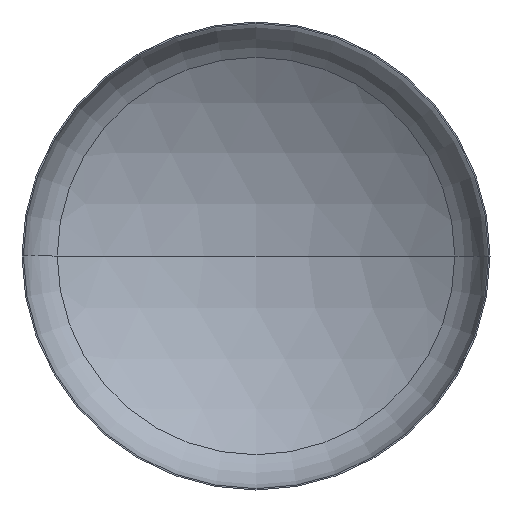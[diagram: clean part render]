
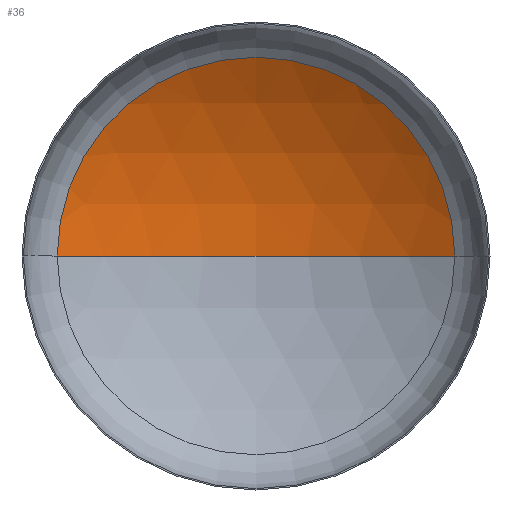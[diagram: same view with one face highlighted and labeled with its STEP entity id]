
A CAD part, front view. The second image highlights one B-rep face of the part: STEP entity #36.
In plain terms, the highlighted spherical face has radius 2720 mm.
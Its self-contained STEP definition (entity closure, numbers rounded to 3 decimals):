
#2 = AXIS2_PLACEMENT_3D ( 'NONE', #137, #327, #73 ) ;
#17 = EDGE_LOOP ( 'NONE', ( #158, #146, #110 ) ) ;
#27 = CIRCLE ( 'NONE', #290, 2720. ) ;
#36 = ADVANCED_FACE ( 'NONE', ( #315 ), #159, .F. ) ;
#57 = VERTEX_POINT ( 'NONE', #235 ) ;
#59 = VERTEX_POINT ( 'NONE', #232 ) ;
#73 = DIRECTION ( 'NONE',  ( 1., 0., 0. ) ) ;
#101 = CARTESIAN_POINT ( 'NONE',  ( 0., -1830.323, 0. ) ) ;
#103 = AXIS2_PLACEMENT_3D ( 'NONE', #229, #228, #225 ) ;
#110 = ORIENTED_EDGE ( 'NONE', *, *, #354, .T. ) ;
#131 = VERTEX_POINT ( 'NONE', #205 ) ;
#137 = CARTESIAN_POINT ( 'NONE',  ( 0., 474.952, 0. ) ) ;
#146 = ORIENTED_EDGE ( 'NONE', *, *, #388, .T. ) ;
#158 = ORIENTED_EDGE ( 'NONE', *, *, #399, .F. ) ;
#159 = SPHERICAL_SURFACE ( 'NONE', #103, 2720. ) ;
#166 = CIRCLE ( 'NONE', #312, 2720. ) ;
#168 = DIRECTION ( 'NONE',  ( 0., 0., 1. ) ) ;
#205 = CARTESIAN_POINT ( 'NONE',  ( 0., 889.677, 0. ) ) ;
#220 = DIRECTION ( 'NONE',  ( -1., 0., 0. ) ) ;
#225 = DIRECTION ( 'NONE',  ( -1., 0., 0. ) ) ;
#228 = DIRECTION ( 'NONE',  ( 0., 0., -1. ) ) ;
#229 = CARTESIAN_POINT ( 'NONE',  ( 0., -1830.323, 0. ) ) ;
#232 = CARTESIAN_POINT ( 'NONE',  ( 1443.645, 474.952, 0. ) ) ;
#235 = CARTESIAN_POINT ( 'NONE',  ( -1443.645, 474.952, 0. ) ) ;
#249 = CIRCLE ( 'NONE', #2, 1443.645 ) ;
#290 = AXIS2_PLACEMENT_3D ( 'NONE', #101, #373, #220 ) ;
#312 = AXIS2_PLACEMENT_3D ( 'NONE', #322, #168, #356 ) ;
#315 = FACE_OUTER_BOUND ( 'NONE', #17, .T. ) ;
#322 = CARTESIAN_POINT ( 'NONE',  ( 0., -1830.323, 0. ) ) ;
#327 = DIRECTION ( 'NONE',  ( 0., -1., 0. ) ) ;
#354 = EDGE_CURVE ( 'NONE', #59, #57, #249, .T. ) ;
#356 = DIRECTION ( 'NONE',  ( 1., 0., 0. ) ) ;
#373 = DIRECTION ( 'NONE',  ( 0., 0., -1. ) ) ;
#388 = EDGE_CURVE ( 'NONE', #131, #59, #27, .T. ) ;
#399 = EDGE_CURVE ( 'NONE', #131, #57, #166, .T. ) ;
